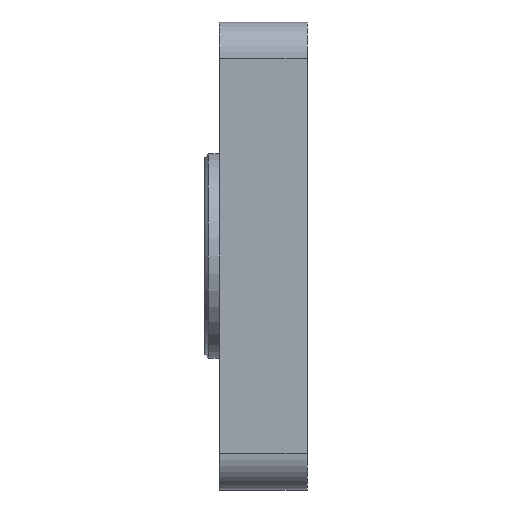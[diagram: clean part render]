
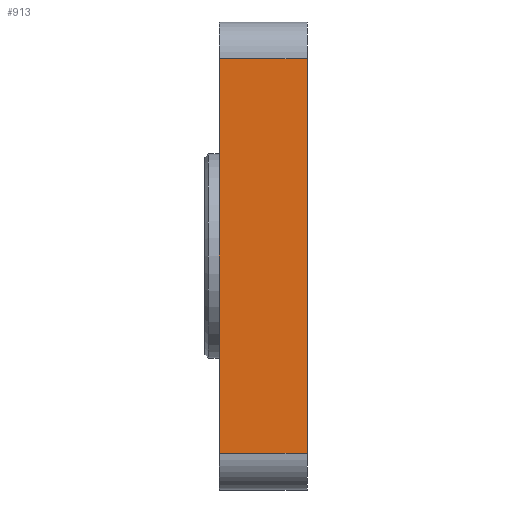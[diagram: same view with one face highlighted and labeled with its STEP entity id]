
A CAD part, front view. The second image highlights one B-rep face of the part: STEP entity #913.
In plain terms, the highlighted planar face has unit normal (0, -1, 0).
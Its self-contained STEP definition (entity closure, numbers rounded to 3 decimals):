
#16 = DIRECTION ( 'NONE',  ( 0., -1., 0. ) ) ;
#55 = PLANE ( 'NONE',  #995 ) ;
#112 = LINE ( 'NONE', #882, #1250 ) ;
#157 = VECTOR ( 'NONE', #1142, 1000. ) ;
#177 = LINE ( 'NONE', #844, #157 ) ;
#231 = EDGE_CURVE ( 'NONE', #1626, #1373, #177, .T. ) ;
#270 = CARTESIAN_POINT ( 'NONE',  ( -12., -32., -27. ) ) ;
#289 = DIRECTION ( 'NONE',  ( 0., 0., -1. ) ) ;
#329 = DIRECTION ( 'NONE',  ( 1., 0., 0. ) ) ;
#335 = ORIENTED_EDGE ( 'NONE', *, *, #231, .T. ) ;
#373 = ORIENTED_EDGE ( 'NONE', *, *, #604, .F. ) ;
#436 = ORIENTED_EDGE ( 'NONE', *, *, #910, .T. ) ;
#446 = LINE ( 'NONE', #1662, #764 ) ;
#502 = VERTEX_POINT ( 'NONE', #1347 ) ;
#582 = VERTEX_POINT ( 'NONE', #933 ) ;
#604 = EDGE_CURVE ( 'NONE', #582, #502, #112, .T. ) ;
#706 = VECTOR ( 'NONE', #329, 1000. ) ;
#759 = CARTESIAN_POINT ( 'NONE',  ( -12., -32., 32. ) ) ;
#764 = VECTOR ( 'NONE', #943, 1000. ) ;
#844 = CARTESIAN_POINT ( 'NONE',  ( -12., -32., 32. ) ) ;
#878 = CARTESIAN_POINT ( 'NONE',  ( -12., -32., 27. ) ) ;
#882 = CARTESIAN_POINT ( 'NONE',  ( 0., -32., 32. ) ) ;
#910 = EDGE_CURVE ( 'NONE', #582, #1626, #446, .T. ) ;
#913 = ADVANCED_FACE ( 'NONE', ( #1070 ), #55, .T. ) ;
#933 = CARTESIAN_POINT ( 'NONE',  ( 0., -32., 27. ) ) ;
#943 = DIRECTION ( 'NONE',  ( -1., 0., 0. ) ) ;
#995 = AXIS2_PLACEMENT_3D ( 'NONE', #759, #16, #1703 ) ;
#1070 = FACE_OUTER_BOUND ( 'NONE', #1315, .T. ) ;
#1107 = EDGE_CURVE ( 'NONE', #1373, #502, #1135, .T. ) ;
#1135 = LINE ( 'NONE', #270, #706 ) ;
#1142 = DIRECTION ( 'NONE',  ( 0., 0., -1. ) ) ;
#1169 = ORIENTED_EDGE ( 'NONE', *, *, #1107, .T. ) ;
#1250 = VECTOR ( 'NONE', #289, 1000. ) ;
#1315 = EDGE_LOOP ( 'NONE', ( #335, #1169, #373, #436 ) ) ;
#1347 = CARTESIAN_POINT ( 'NONE',  ( 0., -32., -27. ) ) ;
#1373 = VERTEX_POINT ( 'NONE', #1680 ) ;
#1626 = VERTEX_POINT ( 'NONE', #878 ) ;
#1662 = CARTESIAN_POINT ( 'NONE',  ( -12., -32., 27. ) ) ;
#1680 = CARTESIAN_POINT ( 'NONE',  ( -12., -32., -27. ) ) ;
#1703 = DIRECTION ( 'NONE',  ( 0., 0., -1. ) ) ;
